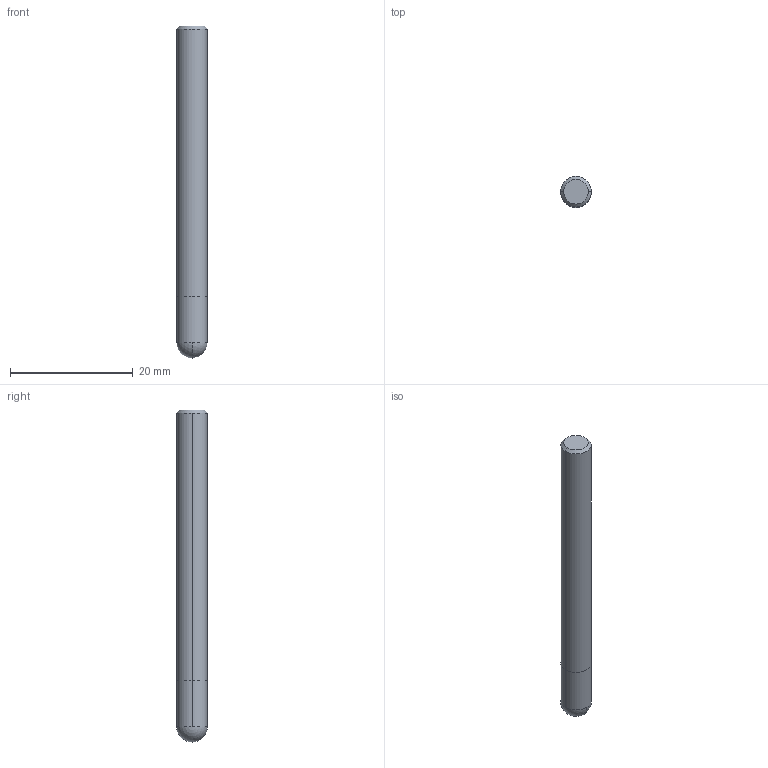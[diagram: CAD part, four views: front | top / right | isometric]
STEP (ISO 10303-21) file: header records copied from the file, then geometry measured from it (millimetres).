
FILE_DESCRIPTION (( 'STEP AP214' ), '1' );
FILE_NAME ('664.050.00_3D-model.step', '2022-02-19T00:28:13', ( '' ), ( '' ), 'SwSTEP 2.0', 'SolidWorks 2020', '' );
FILE_SCHEMA (( 'AUTOMOTIVE_DESIGN' ));
Length unit declared in the file: millimetre
Products named in the file (3): CUT-3D^Baugr141; NOCUT-3D^Baugr141; 664.050.00_3D-model
Assembly tree (2 placements, depth 2):
  664.050.00_3D-model
    CUT-3D^Baugr141
    NOCUT-3D^Baugr141
Bounding box: 5 x 5 x 54 mm (x, y, z)
Volume: 1042.1 mm3; surface area: 902.2 mm2
Topology: 2 solids, 2 shells, 11 faces, 22 edges, 13 vertices
Faces by surface type: cylinder 4, plane 3, sphere 2, cone 2
Entity records: 402 total; most frequent: DIRECTION 72, CARTESIAN_POINT 52, ORIENTED_EDGE 40, AXIS2_PLACEMENT_3D 33, EDGE_CURVE 20, CIRCLE 14, VERTEX_POINT 13, EDGE_LOOP 11
